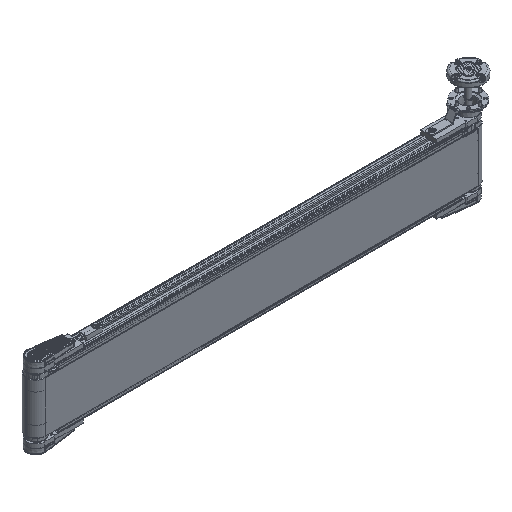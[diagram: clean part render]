
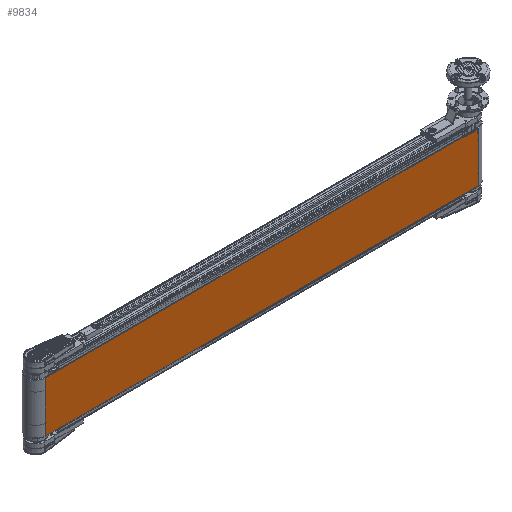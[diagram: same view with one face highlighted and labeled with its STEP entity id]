
A CAD part, isometric view. The second image highlights one B-rep face of the part: STEP entity #9834.
In plain terms, the highlighted planar face has unit normal (0, -1, 0).
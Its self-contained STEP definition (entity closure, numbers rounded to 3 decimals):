
#1897 = CARTESIAN_POINT ( 'NONE',  ( 600., -27., -70. ) ) ;
#3613 = LINE ( 'NONE', #87299, #107835 ) ;
#5604 = VECTOR ( 'NONE', #8480, 1000. ) ;
#8480 = DIRECTION ( 'NONE',  ( 1., 0., 0. ) ) ;
#8788 = PLANE ( 'NONE',  #46863 ) ;
#9130 = LINE ( 'NONE', #69929, #5604 ) ;
#9388 = VERTEX_POINT ( 'NONE', #95045 ) ;
#9834 = ADVANCED_FACE ( 'NONE', ( #89364 ), #8788, .F. ) ;
#17875 = DIRECTION ( 'NONE',  ( 0., 0., -1. ) ) ;
#19224 = VERTEX_POINT ( 'NONE', #1897 ) ;
#20011 = ORIENTED_EDGE ( 'NONE', *, *, #79858, .T. ) ;
#28927 = EDGE_CURVE ( 'NONE', #29952, #117417, #9130, .T. ) ;
#29952 = VERTEX_POINT ( 'NONE', #105569 ) ;
#30699 = CARTESIAN_POINT ( 'NONE',  ( -600., -27., -70. ) ) ;
#37957 = CARTESIAN_POINT ( 'NONE',  ( -600., -27., 70. ) ) ;
#43958 = DIRECTION ( 'NONE',  ( 0., 0., -1. ) ) ;
#46863 = AXIS2_PLACEMENT_3D ( 'NONE', #37957, #88092, #78824 ) ;
#49999 = CARTESIAN_POINT ( 'NONE',  ( 600., -27., 70. ) ) ;
#50968 = EDGE_LOOP ( 'NONE', ( #125197, #78615, #97204, #20011 ) ) ;
#66493 = EDGE_CURVE ( 'NONE', #9388, #19224, #130358, .T. ) ;
#67231 = VECTOR ( 'NONE', #98732, 1000. ) ;
#68279 = VECTOR ( 'NONE', #17875, 1000. ) ;
#69929 = CARTESIAN_POINT ( 'NONE',  ( -600., -27., 70. ) ) ;
#78615 = ORIENTED_EDGE ( 'NONE', *, *, #108990, .F. ) ;
#78824 = DIRECTION ( 'NONE',  ( 0., 0., 1. ) ) ;
#79858 = EDGE_CURVE ( 'NONE', #29952, #9388, #97136, .T. ) ;
#87299 = CARTESIAN_POINT ( 'NONE',  ( 600., -27., 70. ) ) ;
#88092 = DIRECTION ( 'NONE',  ( 0., 1., 0. ) ) ;
#89364 = FACE_OUTER_BOUND ( 'NONE', #50968, .T. ) ;
#95045 = CARTESIAN_POINT ( 'NONE',  ( -600., -27., -70. ) ) ;
#97136 = LINE ( 'NONE', #116299, #68279 ) ;
#97204 = ORIENTED_EDGE ( 'NONE', *, *, #28927, .F. ) ;
#98732 = DIRECTION ( 'NONE',  ( 1., 0., 0. ) ) ;
#105569 = CARTESIAN_POINT ( 'NONE',  ( -600., -27., 70. ) ) ;
#107835 = VECTOR ( 'NONE', #43958, 1000. ) ;
#108990 = EDGE_CURVE ( 'NONE', #117417, #19224, #3613, .T. ) ;
#116299 = CARTESIAN_POINT ( 'NONE',  ( -600., -27., 70. ) ) ;
#117417 = VERTEX_POINT ( 'NONE', #49999 ) ;
#125197 = ORIENTED_EDGE ( 'NONE', *, *, #66493, .T. ) ;
#130358 = LINE ( 'NONE', #30699, #67231 ) ;
